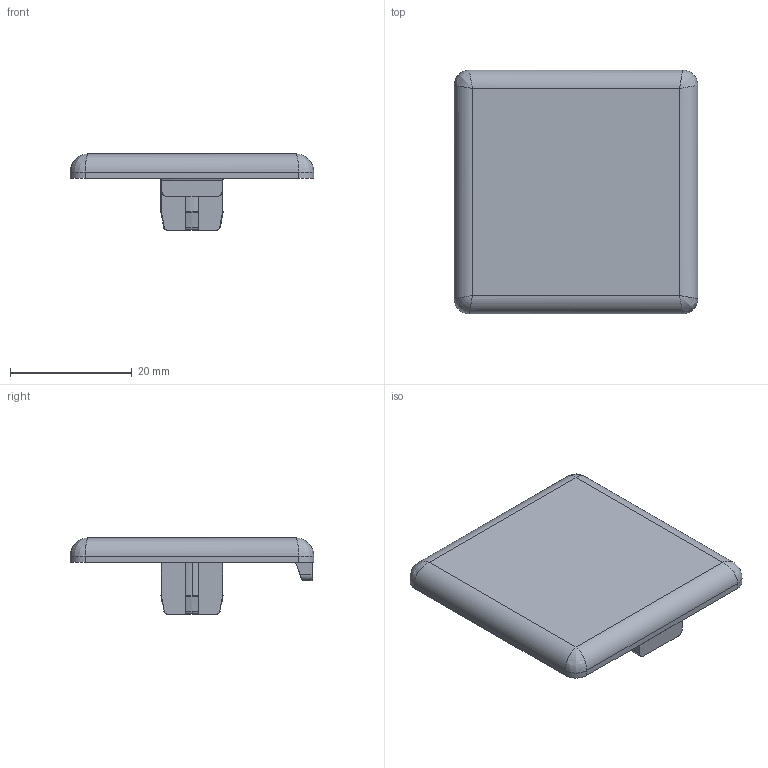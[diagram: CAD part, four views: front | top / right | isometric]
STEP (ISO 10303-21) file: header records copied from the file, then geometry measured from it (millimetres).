
FILE_DESCRIPTION (( 'STEP AP203' ), '1' );
FILE_NAME ('0110AK4040.STEP', '2024-03-06T14:29:32', ( 'Windows-Benutzer' ), ( '' ), 'SwSTEP 2.0', 'SolidWorks 2023', '' );
FILE_SCHEMA (( 'CONFIG_CONTROL_DESIGN' ));
Length unit declared in the file: millimetre
Products named in the file (1): 0110AK4040
Bounding box: 40 x 40 x 12.5 mm (x, y, z)
Volume: 5334.7 mm3; surface area: 4129.7 mm2
Topology: 1 solids, 1 shells, 82 faces, 209 edges, 127 vertices
Faces by surface type: cylinder 35, plane 27, bspline 15, cone 5
Entity records: 2982 total; most frequent: CARTESIAN_POINT 1141, ORIENTED_EDGE 410, DIRECTION 313, EDGE_CURVE 205, VERTEX_POINT 127, AXIS2_PLACEMENT_3D 106, LINE 101, VECTOR 101
